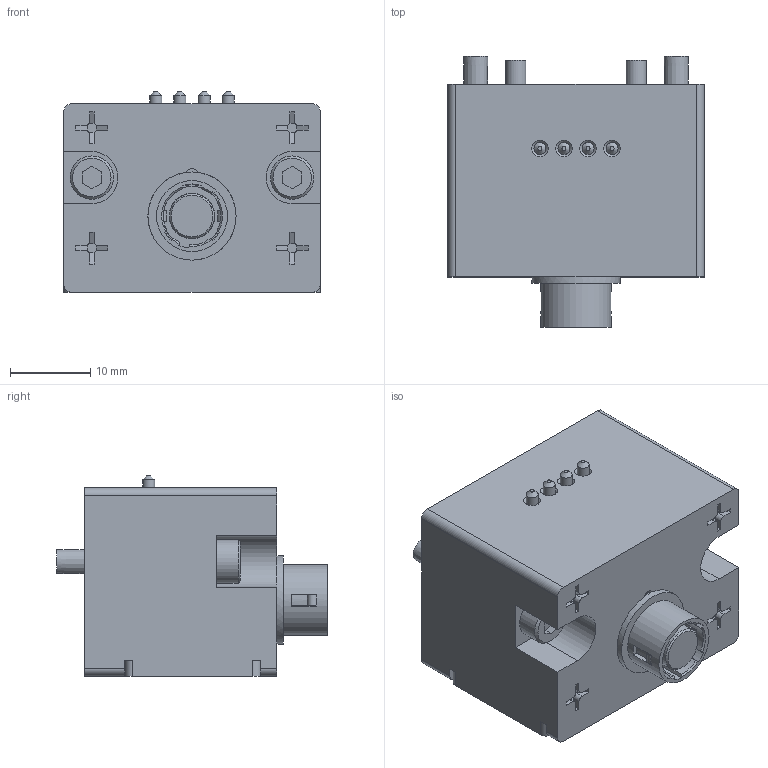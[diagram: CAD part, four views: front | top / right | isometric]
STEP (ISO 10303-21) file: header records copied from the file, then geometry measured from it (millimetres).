
FILE_DESCRIPTION(('STEP AP214'),'1');
FILE_NAME('KHB-7_25HS-D14C_ver1.stp','2026-04-27T01:40:02',(' '),(' '),'Spatial InterOp 3D',' ',' ');
FILE_SCHEMA(('AUTOMOTIVE_DESIGN { 1 0 10303 214 1 1 1 1 }'));
Length unit declared in the file: millimetre
Products named in the file (1): KHB-7~25HS-D14C_ver1
Bounding box: 32 x 33.8 x 25 mm (x, y, z)
Volume: 17718.2 mm3; surface area: 6284.5 mm2
Topology: 1 solids, 17 shells, 456 faces, 1148 edges, 743 vertices
Faces by surface type: plane 318, cylinder 108, cone 30
Full cylindrical faces by diameter (mm): 0.8 x2, 1.5 x4, 2.15 x6, 2.5 x6, 3 x8, 3.5 x2, 5.41 x2, 5.6 x1, 5.7 x1, 8 x1, 8.85 x1, 11 x1
Entity records: 18228 total; most frequent: CARTESIAN_POINT 2293, DIRECTION 2257, ORIENTED_EDGE 2130, EDGE_CURVE 1065, LINE 763, VECTOR 763, STYLED_ITEM 747, PRESENTATION_STYLE_ASSIGNMENT 747
